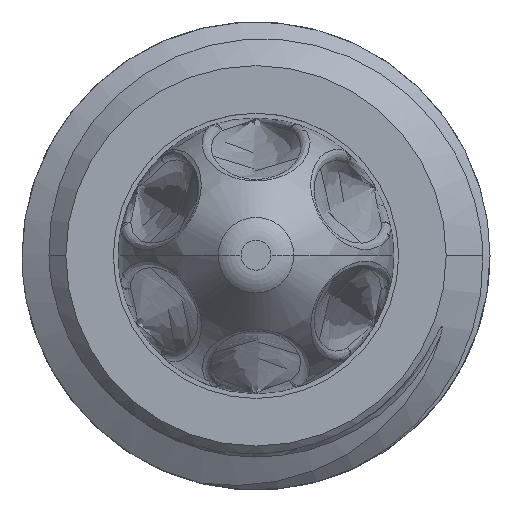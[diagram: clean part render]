
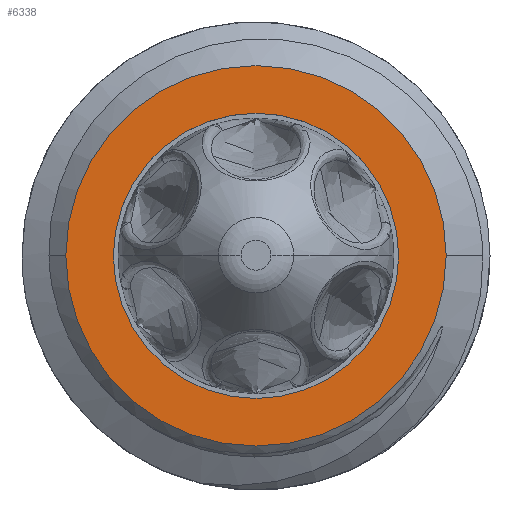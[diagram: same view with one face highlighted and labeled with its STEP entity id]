
A CAD part, top view. The second image highlights one B-rep face of the part: STEP entity #6338.
In plain terms, the highlighted planar face has unit normal (0, 0, 1).
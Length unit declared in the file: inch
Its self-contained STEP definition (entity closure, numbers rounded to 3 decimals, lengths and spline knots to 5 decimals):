
#205 = EDGE_CURVE ( 'NONE', #13281, #9370, #3039, .T. ) ;
#400 = DIRECTION ( 'NONE',  ( 1., 0., 0. ) ) ;
#1570 = CARTESIAN_POINT ( 'NONE',  ( 0., 0.09525, 0.0315 ) ) ;
#2160 = CARTESIAN_POINT ( 'NONE',  ( 0.09525, 0., 0.0315 ) ) ;
#2174 = CARTESIAN_POINT ( 'NONE',  ( -0.127, 0., 0.0315 ) ) ;
#2444 = CIRCLE ( 'NONE', #6845, 0.127 ) ;
#2615 = CARTESIAN_POINT ( 'NONE',  ( 0., 0., 0.0315 ) ) ;
#2713 = AXIS2_PLACEMENT_3D ( 'NONE', #3031, #10155, #14748 ) ;
#3031 = CARTESIAN_POINT ( 'NONE',  ( 0., 0., 0.0315 ) ) ;
#3039 = CIRCLE ( 'NONE', #12073, 0.09525 ) ;
#3058 = CARTESIAN_POINT ( 'NONE',  ( 0., 0., 0.0315 ) ) ;
#3336 = VERTEX_POINT ( 'NONE', #2174 ) ;
#3692 = EDGE_LOOP ( 'NONE', ( #8852, #8602 ) ) ;
#4296 = CIRCLE ( 'NONE', #2713, 0.09525 ) ;
#5541 = CARTESIAN_POINT ( 'NONE',  ( 0., 0., 0.0315 ) ) ;
#6338 = ADVANCED_FACE ( 'NONE', ( #13594, #7735 ), #10741, .F. ) ;
#6845 = AXIS2_PLACEMENT_3D ( 'NONE', #5541, #16953, #15695 ) ;
#7215 = EDGE_LOOP ( 'NONE', ( #10160, #16788 ) ) ;
#7735 = FACE_OUTER_BOUND ( 'NONE', #7215, .T. ) ;
#8069 = CIRCLE ( 'NONE', #10568, 0.127 ) ;
#8507 = VERTEX_POINT ( 'NONE', #11666 ) ;
#8576 = DIRECTION ( 'NONE',  ( 0., 0., 1. ) ) ;
#8602 = ORIENTED_EDGE ( 'NONE', *, *, #11493, .F. ) ;
#8852 = ORIENTED_EDGE ( 'NONE', *, *, #205, .F. ) ;
#9370 = VERTEX_POINT ( 'NONE', #10453 ) ;
#10155 = DIRECTION ( 'NONE',  ( 0., 0., 1. ) ) ;
#10160 = ORIENTED_EDGE ( 'NONE', *, *, #13210, .T. ) ;
#10453 = CARTESIAN_POINT ( 'NONE',  ( -0.09525, 0., 0.0315 ) ) ;
#10468 = DIRECTION ( 'NONE',  ( 0., 0., -1. ) ) ;
#10568 = AXIS2_PLACEMENT_3D ( 'NONE', #3058, #10749, #400 ) ;
#10741 = PLANE ( 'NONE',  #10990 ) ;
#10749 = DIRECTION ( 'NONE',  ( 0., 0., 1. ) ) ;
#10990 = AXIS2_PLACEMENT_3D ( 'NONE', #1570, #10468, #16800 ) ;
#11493 = EDGE_CURVE ( 'NONE', #9370, #13281, #4296, .T. ) ;
#11666 = CARTESIAN_POINT ( 'NONE',  ( 0.127, 0., 0.0315 ) ) ;
#12073 = AXIS2_PLACEMENT_3D ( 'NONE', #2615, #8576, #17653 ) ;
#12507 = EDGE_CURVE ( 'NONE', #8507, #3336, #2444, .T. ) ;
#13210 = EDGE_CURVE ( 'NONE', #3336, #8507, #8069, .T. ) ;
#13281 = VERTEX_POINT ( 'NONE', #2160 ) ;
#13594 = FACE_BOUND ( 'NONE', #3692, .T. ) ;
#14748 = DIRECTION ( 'NONE',  ( 1., 0., 0. ) ) ;
#15695 = DIRECTION ( 'NONE',  ( 1., 0., 0. ) ) ;
#16788 = ORIENTED_EDGE ( 'NONE', *, *, #12507, .T. ) ;
#16800 = DIRECTION ( 'NONE',  ( -1., 0., 0. ) ) ;
#16953 = DIRECTION ( 'NONE',  ( 0., 0., 1. ) ) ;
#17653 = DIRECTION ( 'NONE',  ( 1., 0., 0. ) ) ;
